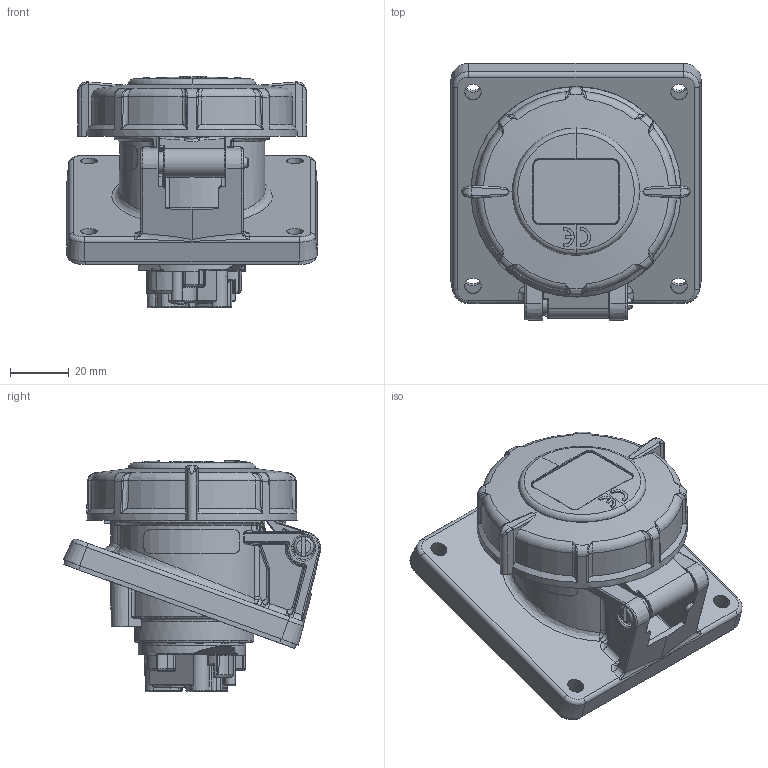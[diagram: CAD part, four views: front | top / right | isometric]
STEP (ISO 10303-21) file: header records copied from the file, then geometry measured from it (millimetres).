
FILE_DESCRIPTION((''),'2;1');
FILE_NAME('1168_','2020-11-19T08:25:10',('funke002'),('MENNEKES'),'CREO PARAMETRIC BY PTC INC, 2019080','CREO PARAMETRIC BY PTC INC, 2019080','');
FILE_SCHEMA(('AUTOMOTIVE_DESIGN { 1 0 10303 214 1 1 1 1 }'));
Products named in the file (1): 1168_
Bounding box: 85 x 87.48 x 78.72 mm (x, y, z)
Volume: 211112 mm3; surface area: 38830.5 mm2
Topology: 1 solids, 1 shells, 1856 faces, 4774 edges, 2951 vertices
Faces by surface type: plane 711, bspline 406, cylinder 355, torus 198, cone 125, sphere 42, extrusion 17, revolution 2
Entity records: 86424 total; most frequent: CARTESIAN_POINT 31212, ORIENTED_EDGE 9538, DIRECTION 7651, EDGE_CURVE 4769, VERTEX_POINT 2951, AXIS2_PLACEMENT_3D 2746, VECTOR 2157, LINE 2140
